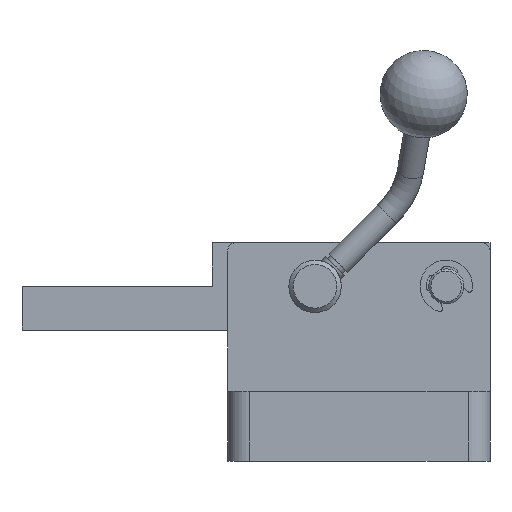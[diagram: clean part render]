
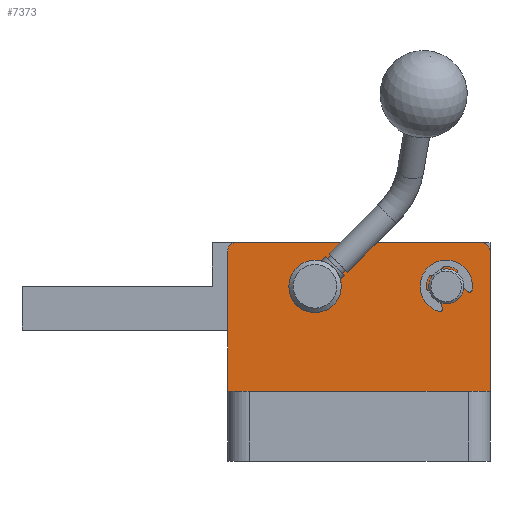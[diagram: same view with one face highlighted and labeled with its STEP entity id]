
A CAD part, front view. The second image highlights one B-rep face of the part: STEP entity #7373.
In plain terms, the highlighted planar face has unit normal (0, -1, 0).
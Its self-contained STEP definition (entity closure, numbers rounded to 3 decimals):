
#1190=LINE('',#23540,#2119);
#1206=LINE('',#23583,#2135);
#1221=LINE('',#23643,#2150);
#1229=LINE('',#23678,#2158);
#2119=VECTOR('',#18941,1.);
#2135=VECTOR('',#18971,1.);
#2150=VECTOR('',#19022,1.);
#2158=VECTOR('',#19060,1.);
#7373=ADVANCED_FACE('',(#8576,#8577,#8578),#8073,.F.);
#8073=PLANE('',#17255);
#8576=FACE_BOUND('',#9256,.T.);
#8577=FACE_BOUND('',#9257,.T.);
#8578=FACE_BOUND('',#9258,.T.);
#9256=EDGE_LOOP('',(#10924));
#9257=EDGE_LOOP('',(#10925));
#9258=EDGE_LOOP('',(#10926,#10927,#10928,#10929,#10930,#10931));
#10924=ORIENTED_EDGE('',*,*,#15199,.F.);
#10925=ORIENTED_EDGE('',*,*,#15200,.F.);
#10926=ORIENTED_EDGE('',*,*,#15132,.F.);
#10927=ORIENTED_EDGE('',*,*,#15201,.F.);
#10928=ORIENTED_EDGE('',*,*,#15152,.T.);
#10929=ORIENTED_EDGE('',*,*,#15202,.F.);
#10930=ORIENTED_EDGE('',*,*,#15182,.F.);
#10931=ORIENTED_EDGE('',*,*,#15203,.F.);
#13817=VERTEX_POINT('',#23539);
#13818=VERTEX_POINT('',#23541);
#13837=VERTEX_POINT('',#23582);
#13838=VERTEX_POINT('',#23584);
#13864=VERTEX_POINT('',#23642);
#13865=VERTEX_POINT('',#23644);
#13875=VERTEX_POINT('',#23674);
#13876=VERTEX_POINT('',#23676);
#15132=EDGE_CURVE('',#13817,#13818,#1190,.T.);
#15152=EDGE_CURVE('',#13838,#13837,#1206,.T.);
#15182=EDGE_CURVE('',#13864,#13865,#1221,.T.);
#15199=EDGE_CURVE('',#13875,#13875,#16568,.T.);
#15200=EDGE_CURVE('',#13876,#13876,#16569,.T.);
#15201=EDGE_CURVE('',#13838,#13817,#16570,.T.);
#15202=EDGE_CURVE('',#13865,#13837,#1229,.T.);
#15203=EDGE_CURVE('',#13818,#13864,#16571,.T.);
#16568=CIRCLE('',#17251,6.);
#16569=CIRCLE('',#17252,4.);
#16570=CIRCLE('',#17253,2.);
#16571=CIRCLE('',#17254,2.);
#17251=AXIS2_PLACEMENT_3D('',#23673,#19054,#19055);
#17252=AXIS2_PLACEMENT_3D('',#23675,#19056,#19057);
#17253=AXIS2_PLACEMENT_3D('',#23677,#19058,#19059);
#17254=AXIS2_PLACEMENT_3D('',#23679,#19061,#19062);
#17255=AXIS2_PLACEMENT_3D('',#23680,#19063,#19064);
#18941=DIRECTION('',(1.,0.,0.));
#18971=DIRECTION('',(0.,0.,-1.));
#19022=DIRECTION('',(0.,0.,-1.));
#19054=DIRECTION('',(0.,-1.,0.));
#19055=DIRECTION('',(0.,0.,-1.));
#19056=DIRECTION('',(0.,-1.,0.));
#19057=DIRECTION('',(0.,0.,-1.));
#19058=DIRECTION('',(0.,1.,0.));
#19059=DIRECTION('',(0.,0.,-1.));
#19060=DIRECTION('',(-1.,0.,0.));
#19061=DIRECTION('',(0.,1.,0.));
#19062=DIRECTION('',(0.,0.,-1.));
#19063=DIRECTION('',(0.,1.,0.));
#19064=DIRECTION('',(0.,0.,1.));
#23539=CARTESIAN_POINT('',(-687.934,-1248.,49.98));
#23540=CARTESIAN_POINT('',(-689.934,-1248.,49.98));
#23541=CARTESIAN_POINT('',(-631.934,-1248.,49.98));
#23582=CARTESIAN_POINT('',(-689.934,-1248.,15.98));
#23583=CARTESIAN_POINT('',(-689.934,-1248.,15.98));
#23584=CARTESIAN_POINT('',(-689.934,-1248.,47.98));
#23642=CARTESIAN_POINT('',(-629.934,-1248.,47.98));
#23643=CARTESIAN_POINT('',(-629.934,-1248.,15.98));
#23644=CARTESIAN_POINT('',(-629.934,-1248.,15.98));
#23673=CARTESIAN_POINT('',(-669.934,-1248.,39.98));
#23674=CARTESIAN_POINT('',(-669.934,-1248.,33.98));
#23675=CARTESIAN_POINT('',(-639.934,-1248.,39.98));
#23676=CARTESIAN_POINT('',(-639.934,-1248.,35.98));
#23677=CARTESIAN_POINT('',(-687.934,-1248.,47.98));
#23678=CARTESIAN_POINT('',(-689.934,-1248.,15.98));
#23679=CARTESIAN_POINT('',(-631.934,-1248.,47.98));
#23680=CARTESIAN_POINT('',(-689.934,-1248.,49.98));
